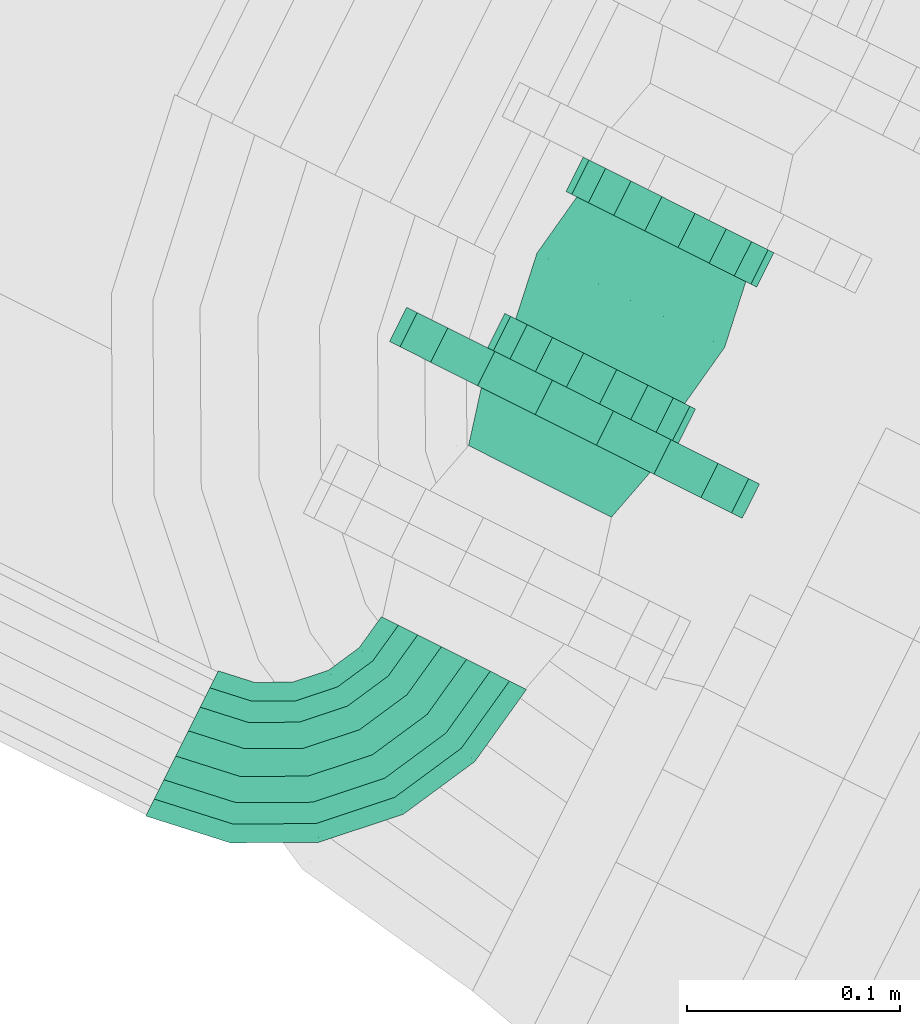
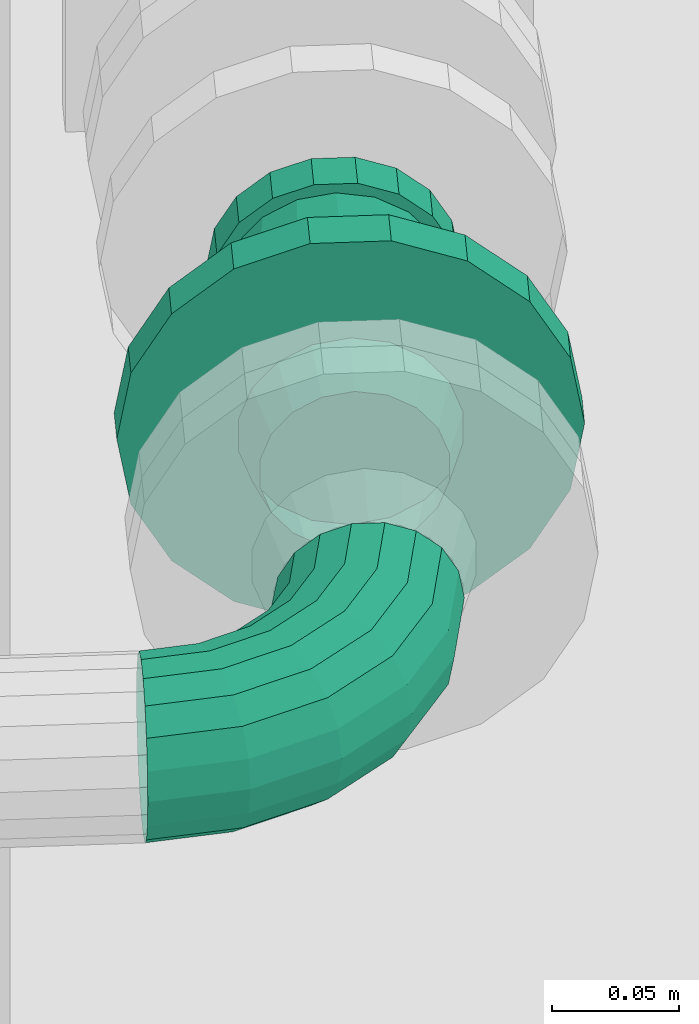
# One storey, part 45 of 206: 2 flow segments, 1 flow fitting.
"""IFC2X3 building model written with IfcOpenShell, lengths in metres."""

from ifc_helpers import new_model, si_unit, derived_unit, direction, frame, origin, place, context, subcontext, project, spatial, face_set, surface_model, source, transform, mapped, material, type_object, type_shapes, element, save


model = new_model("IFC2X3")

# Units and contexts
model_context = context("Model", 3, precision=5.2338327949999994e-05, world=origin(), true_north=direction((0.0, 1.0)))
body_context = subcontext(model_context, "Body", "Model", "MODEL_VIEW")
ifc_project = project(units=[si_unit("LENGTHUNIT", "METRE"), si_unit("AREAUNIT", "SQUARE_METRE"), si_unit("VOLUMEUNIT", "CUBIC_METRE"), si_unit("MASSUNIT", "GRAM", prefix="KILO"), si_unit("PLANEANGLEUNIT", "RADIAN"), derived_unit("THERMALTRANSMITTANCEUNIT", [(si_unit("MASSUNIT", "GRAM", prefix="KILO"), 1), (si_unit("THERMODYNAMICTEMPERATUREUNIT", "KELVIN"), -1), (si_unit("TIMEUNIT", "SECOND"), -3)])], contexts=[model_context])

# Site, building, storey
site_placement = place(None, frame((0.0, 0.0, 0.0), z_axis=(0.0, 0.0, 1.0), x_axis=(0.8939966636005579, -0.4480736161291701, 0.0)))
site = spatial("IfcSite", under=ifc_project, at=site_placement, Name="Default", CompositionType="ELEMENT")
building_placement = place(site_placement, origin())
building = spatial("IfcBuilding", under=site, at=building_placement, CompositionType="ELEMENT")
storey_placement = place(building_placement, origin())
storey = spatial("IfcBuildingStorey", under=building, at=storey_placement, Name="Erdgeschoss", CompositionType="ELEMENT", Elevation=0.0)

# Flow fitting
ifc_material = material(Name="IfcSurfaceStyle #352577")
distribution_element_type_1 = type_object("IfcDistributionElementType", Name="Flansch 354304:Flansch 354304", material=ifc_material)
shared_shape_1 = source(origin(), body_context, "Body", "SurfaceModel", [
    surface_model("IfcFaceBasedSurfaceModel", [(22.356766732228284, 5.01295839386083, 0.9080499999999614), (22.36978059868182, 5.012958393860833, 0.905755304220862), (22.372157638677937, 5.039958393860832, 0.9122861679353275), (22.35676673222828, 5.039958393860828, 0.914999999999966), (22.381224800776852, 5.012958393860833, 0.899147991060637), (22.38569217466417, 5.039958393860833, 0.9044719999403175), (22.38971899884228, 5.012958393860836, 0.8890249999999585), (22.39573787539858, 5.039958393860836, 0.8924999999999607), (22.39423866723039, 5.012958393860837, 0.8766073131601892), (22.401083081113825, 5.039958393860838, 0.8778141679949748), (22.3942386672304, 5.012958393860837, 0.8633926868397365), (22.40108308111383, 5.039958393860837, 0.8621858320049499), (22.38971899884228, 5.012958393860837, 0.85097499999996), (22.39573787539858, 5.039958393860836, 0.8474999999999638), (22.38122480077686, 5.012958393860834, 0.8408520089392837), (22.38569217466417, 5.039958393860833, 0.8355280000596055), (22.369780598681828, 5.012958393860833, 0.8342446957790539), (22.372157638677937, 5.039958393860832, 0.8277138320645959), (22.356766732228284, 5.012958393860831, 0.8319499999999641), (22.356766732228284, 5.03995839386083, 0.8249999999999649), (22.34375286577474, 5.012958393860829, 0.8342446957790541), (22.341375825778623, 5.039958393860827, 0.8277138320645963), (22.33230866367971, 5.012958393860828, 0.8408520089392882), (22.32784128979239, 5.039958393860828, 0.8355280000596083), (22.323814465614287, 5.012958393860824, 0.8509749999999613), (22.317795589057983, 5.039958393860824, 0.8474999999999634), (22.319294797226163, 5.012958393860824, 0.8633926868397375), (22.312450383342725, 5.039958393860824, 0.8621858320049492), (22.319294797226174, 5.012958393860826, 0.8766073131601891), (22.31245038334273, 5.039958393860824, 0.8778141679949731), (22.323814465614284, 5.012958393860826, 0.8890249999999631), (22.317795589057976, 5.039958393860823, 0.8924999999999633), (22.33230866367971, 5.012958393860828, 0.8991479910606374), (22.327841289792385, 5.039958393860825, 0.9044719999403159), (22.343752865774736, 5.012958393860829, 0.9057553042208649), (22.341375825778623, 5.039958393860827, 0.9122861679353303), (22.26426673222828, 5.039958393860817, 0.8699999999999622), (22.269845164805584, 5.039958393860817, 0.9016368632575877), (22.269845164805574, 5.057958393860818, 0.9016368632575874), (22.264266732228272, 5.057958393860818, 0.8699999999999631), (22.28590762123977, 5.03995839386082, 0.9294578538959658), (22.285907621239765, 5.05795839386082, 0.9294578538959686), (22.310516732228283, 5.039958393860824, 0.9501073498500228), (22.310516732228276, 5.057958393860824, 0.9501073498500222), (22.34070427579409, 5.039958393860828, 0.9610947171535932), (22.340704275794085, 5.057958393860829, 0.9610947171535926), (22.37282918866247, 5.039958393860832, 0.9610947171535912), (22.372829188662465, 5.057958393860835, 0.9610947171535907), (22.403016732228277, 5.039958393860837, 0.9501073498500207), (22.403016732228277, 5.057958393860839, 0.95010734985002), (22.427625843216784, 5.039958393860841, 0.9294578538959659), (22.427625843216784, 5.057958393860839, 0.9294578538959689), (22.443688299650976, 5.039958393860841, 0.9016368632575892), (22.443688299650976, 5.057958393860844, 0.901636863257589), (22.449266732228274, 5.039958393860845, 0.8699999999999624), (22.449266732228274, 5.057958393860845, 0.8699999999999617), (22.443688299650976, 5.039958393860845, 0.8383631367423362), (22.44368829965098, 5.057958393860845, 0.838363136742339), (22.427625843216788, 5.039958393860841, 0.810542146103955), (22.42762584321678, 5.057958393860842, 0.810542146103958), (22.403016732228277, 5.039958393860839, 0.7898926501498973), (22.403016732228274, 5.057958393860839, 0.7898926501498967), (22.372829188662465, 5.039958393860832, 0.7789052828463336), (22.372829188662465, 5.057958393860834, 0.7789052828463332), (22.34070427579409, 5.039958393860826, 0.7789052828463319), (22.34070427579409, 5.057958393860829, 0.7789052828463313), (22.310516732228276, 5.039958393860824, 0.7898926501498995), (22.310516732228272, 5.057958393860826, 0.7898926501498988), (22.285907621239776, 5.039958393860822, 0.8105421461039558), (22.28590762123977, 5.05795839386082, 0.8105421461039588), (22.269845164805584, 5.039958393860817, 0.838363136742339), (22.269845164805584, 5.057958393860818, 0.8383631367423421), (22.356766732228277, 5.0399583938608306, 0.8699999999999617)], [face_set([[[0, 1, 2, 3]], [[1, 4, 5, 2]], [[4, 6, 7, 5]], [[6, 8, 9, 7]], [[8, 10, 11, 9]], [[10, 12, 13, 11]], [[12, 14, 15, 13]], [[14, 16, 17, 15]], [[16, 18, 19, 17]], [[18, 20, 21, 19]], [[20, 22, 23, 21]], [[22, 24, 25, 23]], [[24, 26, 27, 25]], [[26, 28, 29, 27]], [[28, 30, 31, 29]], [[30, 32, 33, 31]], [[32, 34, 35, 33]], [[34, 0, 3, 35]], [[36, 37, 38, 39]], [[37, 40, 41, 38]], [[40, 42, 43, 41]], [[42, 44, 45, 43]], [[44, 46, 47, 45]], [[46, 48, 49, 47]], [[48, 50, 51, 49]], [[50, 52, 53, 51]], [[52, 54, 55, 53]], [[54, 56, 57, 55]], [[56, 58, 59, 57]], [[58, 60, 61, 59]], [[60, 62, 63, 61]], [[62, 64, 65, 63]], [[64, 66, 67, 65]], [[66, 68, 69, 67]], [[68, 70, 71, 69]], [[70, 36, 39, 71]], [[72, 37, 36]], [[72, 40, 37]], [[72, 42, 40]], [[72, 44, 42]], [[72, 46, 44]], [[72, 48, 46]], [[72, 50, 48]], [[72, 52, 50]], [[72, 54, 52]], [[72, 56, 54]], [[72, 58, 56]], [[72, 60, 58]], [[72, 62, 60]], [[72, 64, 62]], [[72, 66, 64]], [[72, 68, 66]], [[72, 70, 68]], [[72, 36, 70]]])]),
])
type_shapes(distribution_element_type_1, [shared_shape_1])
flow_fitting_placement = place(storey_placement, origin())
element("IfcFlowFitting", 1, at=flow_fitting_placement, inside=storey, type_object=distribution_element_type_1, material=ifc_material, Name="Flansch", ObjectType="Flansch", context=body_context, shape_type="MappedRepresentation", body=[
    mapped(shared_shape_1, transform((0.0, 0.0, 0.0), scale=1.0)),
])

# Flow segments
distribution_element_type_2 = type_object("IfcDistributionElementType", Name="Rohrbogen 355778:Rohrbogen 355778", material=ifc_material)
shared_shape_2 = source(origin(), body_context, "Body", "SurfaceModel", [
    surface_model("IfcFaceBasedSurfaceModel", [(22.394816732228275, 4.922958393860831, 0.8699999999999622), (22.392522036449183, 4.92295839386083, 0.8830138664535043), (22.38612241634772, 4.882552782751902, 0.8830138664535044), (22.388304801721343, 4.881843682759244, 0.8699999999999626), (22.367549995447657, 4.846102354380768, 0.8830138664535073), (22.369406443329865, 4.844753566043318, 0.8699999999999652), (22.338622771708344, 4.817175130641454, 0.8830138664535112), (22.33997156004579, 4.815318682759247, 0.8699999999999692), (22.30217234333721, 4.798602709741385, 0.8830138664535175), (22.302881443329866, 4.796420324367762, 0.8699999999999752), (22.261766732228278, 4.7922030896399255, 0.8830138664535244), (22.261766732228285, 4.7899083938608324, 0.8699999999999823), (22.385914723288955, 4.92295839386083, 0.8944580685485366), (22.379838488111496, 4.884594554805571, 0.8944580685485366), (22.36220456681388, 4.849986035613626, 0.8944580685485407), (22.334739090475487, 4.822520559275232, 0.8944580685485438), (22.30013057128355, 4.804886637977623, 0.8944580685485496), (22.26176673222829, 4.798810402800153, 0.8944580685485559), (22.375791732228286, 4.922958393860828, 0.9029522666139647), (22.37021095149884, 4.887722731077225, 0.9029522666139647), (22.35401489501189, 4.855936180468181, 0.9029522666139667), (22.32878894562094, 4.8307102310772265, 0.902952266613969), (22.297002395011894, 4.814514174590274, 0.9029522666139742), (22.26176673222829, 4.808933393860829, 0.9029522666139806), (22.363374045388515, 4.922958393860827, 0.907471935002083), (22.358401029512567, 4.891560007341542, 0.9074719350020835), (22.34396877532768, 4.863235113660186, 0.9074719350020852), (22.32149001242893, 4.840756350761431, 0.9074719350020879), (22.293165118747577, 4.826324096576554, 0.9074719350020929), (22.261766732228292, 4.821351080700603, 0.9074719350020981), (22.35015941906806, 4.922958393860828, 0.907471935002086), (22.34583317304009, 4.895643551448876, 0.9074719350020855), (22.333277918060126, 4.871002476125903, 0.9074719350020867), (22.313722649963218, 4.851447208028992, 0.9074719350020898), (22.289081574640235, 4.838891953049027, 0.9074719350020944), (22.261766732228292, 4.8345657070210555, 0.9074719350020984), (22.337741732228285, 4.92295839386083, 0.9029522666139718), (22.334023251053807, 4.899480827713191, 0.9029522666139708), (22.323231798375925, 4.878301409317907, 0.9029522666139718), (22.306423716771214, 4.861493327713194, 0.9029522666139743), (22.28524429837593, 4.850701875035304, 0.9029522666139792), (22.261766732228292, 4.8469833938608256, 0.9029522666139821), (22.32761874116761, 4.922958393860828, 0.8944580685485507), (22.324395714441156, 4.902609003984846, 0.8944580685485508), (22.315042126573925, 4.884251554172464, 0.8944580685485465), (22.30047357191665, 4.86968299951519, 0.8944580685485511), (22.28211612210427, 4.860329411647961, 0.8944580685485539), (22.261766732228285, 4.857106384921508, 0.8944580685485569), (22.321011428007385, 4.92295839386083, 0.8830138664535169), (22.318111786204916, 4.9046507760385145, 0.8830138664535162), (22.309696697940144, 4.888135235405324, 0.8830138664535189), (22.296589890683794, 4.875028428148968, 0.883013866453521), (22.2800743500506, 4.866613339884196, 0.883013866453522), (22.26176673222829, 4.863713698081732, 0.8830138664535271), (22.318716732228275, 4.922958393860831, 0.8699999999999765), (22.315929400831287, 4.905359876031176, 0.8699999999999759), (22.307840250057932, 4.889484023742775, 0.8699999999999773), (22.29524110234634, 4.876884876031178, 0.8699999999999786), (22.27936525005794, 4.868795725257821, 0.8699999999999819), (22.261766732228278, 4.866008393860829, 0.8699999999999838), (22.321011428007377, 4.92295839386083, 0.8569861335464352), (22.318111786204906, 4.904650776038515, 0.8569861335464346), (22.30969669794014, 4.888135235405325, 0.8569861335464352), (22.296589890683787, 4.87502842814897, 0.8569861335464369), (22.280074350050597, 4.866613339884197, 0.8569861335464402), (22.261766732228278, 4.863713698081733, 0.8569861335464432), (22.327618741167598, 4.92295839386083, 0.8455419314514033), (22.32439571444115, 4.902609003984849, 0.8455419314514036), (22.315042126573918, 4.884251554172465, 0.8455419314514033), (22.30047357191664, 4.86968299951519, 0.8455419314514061), (22.28211612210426, 4.860329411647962, 0.8455419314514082), (22.261766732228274, 4.85710638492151, 0.8455419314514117), (22.337741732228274, 4.922958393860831, 0.8370477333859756), (22.334023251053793, 4.899480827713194, 0.8370477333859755), (22.323231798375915, 4.878301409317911, 0.837047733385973), (22.3064237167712, 4.861493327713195, 0.8370477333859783), (22.285244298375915, 4.850701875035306, 0.8370477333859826), (22.261766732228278, 4.846983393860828, 0.8370477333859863), (22.350159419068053, 4.92295839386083, 0.8325280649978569), (22.345833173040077, 4.8956435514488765, 0.8325280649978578), (22.33327791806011, 4.871002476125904, 0.8325280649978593), (22.3137226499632, 4.851447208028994, 0.8325280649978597), (22.289081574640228, 4.838891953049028, 0.8325280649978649), (22.261766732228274, 4.834565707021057, 0.8325280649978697), (22.3633740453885, 4.92295839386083, 0.8325280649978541), (22.35840102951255, 4.891560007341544, 0.8325280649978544), (22.343968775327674, 4.8632351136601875, 0.8325280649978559), (22.321490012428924, 4.840756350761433, 0.832528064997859), (22.293165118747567, 4.826324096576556, 0.8325280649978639), (22.261766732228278, 4.8213510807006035, 0.8325280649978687), (22.375791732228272, 4.92295839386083, 0.8370477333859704), (22.370210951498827, 4.887722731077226, 0.8370477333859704), (22.35401489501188, 4.855936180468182, 0.8370477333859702), (22.32878894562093, 4.830710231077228, 0.837047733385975), (22.29700239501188, 4.8145141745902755, 0.8370477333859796), (22.261766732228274, 4.808933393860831, 0.837047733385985), (22.385914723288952, 4.922958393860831, 0.8455419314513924), (22.379838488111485, 4.884594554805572, 0.8455419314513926), (22.362204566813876, 4.849986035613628, 0.8455419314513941), (22.33473909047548, 4.822520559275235, 0.8455419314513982), (22.300130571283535, 4.8048866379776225, 0.8455419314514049), (22.261766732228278, 4.798810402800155, 0.8455419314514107), (22.39252203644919, 4.922958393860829, 0.8569861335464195), (22.386122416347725, 4.882552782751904, 0.8569861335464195), (22.367549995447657, 4.846102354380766, 0.856986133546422), (22.338622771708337, 4.817175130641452, 0.8569861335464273), (22.302172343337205, 4.798602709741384, 0.8569861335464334), (22.261766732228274, 4.792203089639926, 0.8569861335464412)], [face_set([[[0, 1, 2, 3]], [[3, 2, 4, 5]], [[5, 4, 6, 7]], [[7, 6, 8, 9]], [[9, 8, 10, 11]], [[1, 12, 13, 2]], [[2, 13, 14, 4]], [[4, 14, 15, 6]], [[6, 15, 16, 8]], [[8, 16, 17, 10]], [[12, 18, 19, 13]], [[13, 19, 20, 14]], [[14, 20, 21, 15]], [[15, 21, 22, 16]], [[16, 22, 23, 17]], [[18, 24, 25, 19]], [[19, 25, 26, 20]], [[20, 26, 27, 21]], [[21, 27, 28, 22]], [[22, 28, 29, 23]], [[24, 30, 31, 25]], [[25, 31, 32, 26]], [[26, 32, 33, 27]], [[27, 33, 34, 28]], [[28, 34, 35, 29]], [[30, 36, 37, 31]], [[31, 37, 38, 32]], [[32, 38, 39, 33]], [[33, 39, 40, 34]], [[34, 40, 41, 35]], [[36, 42, 43, 37]], [[37, 43, 44, 38]], [[38, 44, 45, 39]], [[39, 45, 46, 40]], [[40, 46, 47, 41]], [[42, 48, 49, 43]], [[43, 49, 50, 44]], [[44, 50, 51, 45]], [[45, 51, 52, 46]], [[46, 52, 53, 47]], [[48, 54, 55, 49]], [[49, 55, 56, 50]], [[50, 56, 57, 51]], [[51, 57, 58, 52]], [[52, 58, 59, 53]], [[54, 60, 61, 55]], [[55, 61, 62, 56]], [[56, 62, 63, 57]], [[57, 63, 64, 58]], [[58, 64, 65, 59]], [[60, 66, 67, 61]], [[61, 67, 68, 62]], [[62, 68, 69, 63]], [[63, 69, 70, 64]], [[64, 70, 71, 65]], [[66, 72, 73, 67]], [[67, 73, 74, 68]], [[68, 74, 75, 69]], [[69, 75, 76, 70]], [[70, 76, 77, 71]], [[72, 78, 79, 73]], [[73, 79, 80, 74]], [[74, 80, 81, 75]], [[75, 81, 82, 76]], [[76, 82, 83, 77]], [[78, 84, 85, 79]], [[79, 85, 86, 80]], [[80, 86, 87, 81]], [[81, 87, 88, 82]], [[82, 88, 89, 83]], [[84, 90, 91, 85]], [[85, 91, 92, 86]], [[86, 92, 93, 87]], [[87, 93, 94, 88]], [[88, 94, 95, 89]], [[90, 96, 97, 91]], [[91, 97, 98, 92]], [[92, 98, 99, 93]], [[93, 99, 100, 94]], [[94, 100, 101, 95]], [[96, 102, 103, 97]], [[97, 103, 104, 98]], [[98, 104, 105, 99]], [[99, 105, 106, 100]], [[100, 106, 107, 101]], [[102, 0, 3, 103]], [[103, 3, 5, 104]], [[104, 5, 7, 105]], [[105, 7, 9, 106]], [[106, 9, 11, 107]]])]),
])
type_shapes(distribution_element_type_2, [shared_shape_2])
flow_segment_1_placement = place(storey_placement, origin())
element("IfcFlowSegment", 2, at=flow_segment_1_placement, inside=storey, type_object=distribution_element_type_2, material=ifc_material, Name="Rohrbogen", ObjectType="Rohrbogen", context=body_context, shape_type="MappedRepresentation", body=[
    mapped(shared_shape_2, transform((0.0, 0.0, 0.0), scale=1.0)),
])
distribution_element_type_3 = type_object("IfcDistributionElementType", Name="Gummikompensator:Gummikompensator", material=ifc_material)
shared_shape_3 = source(origin(), body_context, "Body", "SurfaceModel", [
    surface_model("IfcFaceBasedSurfaceModel", [(22.306766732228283, 5.15795839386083, 0.8699999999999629), (22.309782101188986, 5.15795839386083, 0.8528989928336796), (22.309782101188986, 5.13995839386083, 0.8528989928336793), (22.306766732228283, 5.13995839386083, 0.8699999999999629), (22.318464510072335, 5.15795839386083, 0.8378606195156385), (22.318464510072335, 5.13995839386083, 0.8378606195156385), (22.33176673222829, 5.15795839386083, 0.8266987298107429), (22.33176673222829, 5.13995839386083, 0.8266987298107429), (22.348084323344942, 5.15795839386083, 0.8207596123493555), (22.348084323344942, 5.13995839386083, 0.8207596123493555), (22.36544914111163, 5.15795839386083, 0.820759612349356), (22.36544914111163, 5.13995839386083, 0.820759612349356), (22.381766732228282, 5.15795839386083, 0.826698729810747), (22.381766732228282, 5.13995839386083, 0.826698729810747), (22.39506895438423, 5.15795839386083, 0.8378606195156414), (22.39506895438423, 5.13995839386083, 0.8378606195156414), (22.40375136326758, 5.15795839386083, 0.8528989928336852), (22.40375136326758, 5.13995839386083, 0.8528989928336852), (22.40676673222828, 5.15795839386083, 0.8699999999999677), (22.40676673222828, 5.13995839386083, 0.8699999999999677), (22.403751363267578, 5.15795839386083, 0.8871010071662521), (22.403751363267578, 5.13995839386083, 0.8871010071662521), (22.395068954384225, 5.15795839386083, 0.9021393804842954), (22.395068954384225, 5.13995839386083, 0.9021393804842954), (22.38176673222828, 5.15795839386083, 0.9133012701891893), (22.38176673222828, 5.13995839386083, 0.9133012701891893), (22.36544914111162, 5.15795839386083, 0.9192403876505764), (22.36544914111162, 5.13995839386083, 0.9192403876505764), (22.34808432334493, 5.15795839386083, 0.9192403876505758), (22.34808432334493, 5.13995839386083, 0.9192403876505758), (22.331766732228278, 5.15795839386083, 0.9133012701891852), (22.331766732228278, 5.13995839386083, 0.9133012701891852), (22.318464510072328, 5.15795839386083, 0.9021393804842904), (22.318464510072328, 5.13995839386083, 0.9021393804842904), (22.309782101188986, 5.15795839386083, 0.887101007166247), (22.309782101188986, 5.13995839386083, 0.887101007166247), (22.356766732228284, 5.15795839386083, 0.8699999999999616), (22.356766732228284, 5.139958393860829, 0.8699999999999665), (22.356766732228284, 5.13995839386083, 0.8249999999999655), (22.37215763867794, 5.13995839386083, 0.8277138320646), (22.37386773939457, 5.10795839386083, 0.8230153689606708), (22.356766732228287, 5.10795839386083, 0.8199999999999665), (22.38569217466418, 5.13995839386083, 0.8355280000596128), (22.388906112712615, 5.10795839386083, 0.8316977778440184), (22.395737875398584, 5.13995839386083, 0.847499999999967), (22.400068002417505, 5.10795839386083, 0.844999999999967), (22.40108308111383, 5.13995839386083, 0.8621858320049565), (22.406007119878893, 5.10795839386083, 0.861317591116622), (22.40108308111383, 5.13995839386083, 0.8778141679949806), (22.406007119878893, 5.10795839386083, 0.8786824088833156), (22.39573787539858, 5.13995839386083, 0.8924999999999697), (22.4000680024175, 5.10795839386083, 0.8949999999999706), (22.38569217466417, 5.13995839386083, 0.9044719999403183), (22.3889061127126, 5.10795839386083, 0.9083022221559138), (22.372157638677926, 5.13995839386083, 0.9122861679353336), (22.37386773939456, 5.10795839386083, 0.9169846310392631), (22.35676673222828, 5.13995839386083, 0.9149999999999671), (22.356766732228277, 5.10795839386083, 0.9199999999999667), (22.341375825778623, 5.13995839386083, 0.912286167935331), (22.339665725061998, 5.10795839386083, 0.9169846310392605), (22.327841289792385, 5.13995839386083, 0.9044719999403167), (22.32462735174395, 5.10795839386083, 0.908302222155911), (22.31779558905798, 5.13995839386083, 0.8924999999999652), (22.31346546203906, 5.10795839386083, 0.8949999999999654), (22.312450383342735, 5.13995839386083, 0.8778141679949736), (22.307526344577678, 5.10795839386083, 0.8786824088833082), (22.31245038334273, 5.13995839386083, 0.8621858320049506), (22.30752634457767, 5.10795839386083, 0.8613175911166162), (22.317795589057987, 5.13995839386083, 0.8474999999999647), (22.31346546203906, 5.10795839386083, 0.8449999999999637), (22.327841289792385, 5.13995839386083, 0.8355280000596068), (22.32462735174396, 5.10795839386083, 0.831697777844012), (22.341375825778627, 5.13995839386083, 0.8277138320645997), (22.339665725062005, 5.10795839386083, 0.8230153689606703), (22.37215763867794, 5.07595839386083, 0.8277138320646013), (22.356766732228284, 5.07595839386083, 0.8249999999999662), (22.38569217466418, 5.07595839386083, 0.8355280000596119), (22.395737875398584, 5.07595839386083, 0.8474999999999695), (22.40108308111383, 5.07595839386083, 0.8621858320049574), (22.40108308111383, 5.07595839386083, 0.8778141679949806), (22.39573787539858, 5.07595839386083, 0.8924999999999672), (22.38569217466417, 5.07595839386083, 0.904471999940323), (22.372157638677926, 5.07595839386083, 0.9122861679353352), (22.35676673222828, 5.07595839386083, 0.9149999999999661), (22.341375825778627, 5.07595839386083, 0.912286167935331), (22.327841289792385, 5.07595839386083, 0.9044719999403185), (22.31779558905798, 5.07595839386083, 0.8924999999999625), (22.312450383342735, 5.07595839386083, 0.8778141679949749), (22.31245038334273, 5.07595839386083, 0.862185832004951), (22.317795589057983, 5.07595839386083, 0.8474999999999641), (22.327841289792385, 5.07595839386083, 0.8355280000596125), (22.341375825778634, 5.07595839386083, 0.8277138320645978), (22.306766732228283, 5.07595839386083, 0.8699999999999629), (22.309782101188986, 5.07595839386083, 0.8528989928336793), (22.309782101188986, 5.0579583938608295, 0.8528989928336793), (22.306766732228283, 5.0579583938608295, 0.8699999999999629), (22.318464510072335, 5.07595839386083, 0.8378606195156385), (22.318464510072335, 5.0579583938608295, 0.8378606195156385), (22.33176673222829, 5.07595839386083, 0.8266987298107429), (22.33176673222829, 5.0579583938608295, 0.8266987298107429), (22.348084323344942, 5.07595839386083, 0.8207596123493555), (22.348084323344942, 5.0579583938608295, 0.8207596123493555), (22.36544914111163, 5.07595839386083, 0.820759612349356), (22.36544914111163, 5.0579583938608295, 0.820759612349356), (22.381766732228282, 5.07595839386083, 0.826698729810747), (22.381766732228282, 5.0579583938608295, 0.826698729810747), (22.39506895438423, 5.07595839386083, 0.8378606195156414), (22.39506895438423, 5.0579583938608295, 0.8378606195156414), (22.40375136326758, 5.07595839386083, 0.8528989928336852), (22.40375136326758, 5.0579583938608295, 0.8528989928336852), (22.40676673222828, 5.07595839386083, 0.8699999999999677), (22.40676673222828, 5.0579583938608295, 0.8699999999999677), (22.403751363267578, 5.07595839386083, 0.8871010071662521), (22.403751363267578, 5.0579583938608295, 0.8871010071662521), (22.395068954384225, 5.07595839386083, 0.9021393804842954), (22.395068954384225, 5.0579583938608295, 0.9021393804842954), (22.38176673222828, 5.07595839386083, 0.9133012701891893), (22.38176673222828, 5.0579583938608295, 0.9133012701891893), (22.36544914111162, 5.07595839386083, 0.9192403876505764), (22.36544914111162, 5.0579583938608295, 0.9192403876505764), (22.34808432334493, 5.07595839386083, 0.9192403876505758), (22.34808432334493, 5.0579583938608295, 0.9192403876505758), (22.331766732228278, 5.07595839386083, 0.9133012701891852), (22.331766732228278, 5.0579583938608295, 0.9133012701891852), (22.318464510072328, 5.07595839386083, 0.9021393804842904), (22.318464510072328, 5.0579583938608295, 0.9021393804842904), (22.309782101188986, 5.07595839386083, 0.887101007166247), (22.309782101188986, 5.0579583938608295, 0.887101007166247), (22.356766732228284, 5.07595839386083, 0.8699999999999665), (22.356766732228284, 5.0579583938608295, 0.8699999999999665)], [face_set([[[0, 1, 2, 3]], [[1, 4, 5, 2]], [[4, 6, 7, 5]], [[6, 8, 9, 7]], [[8, 10, 11, 9]], [[10, 12, 13, 11]], [[12, 14, 15, 13]], [[14, 16, 17, 15]], [[16, 18, 19, 17]], [[18, 20, 21, 19]], [[20, 22, 23, 21]], [[22, 24, 25, 23]], [[24, 26, 27, 25]], [[26, 28, 29, 27]], [[28, 30, 31, 29]], [[30, 32, 33, 31]], [[32, 34, 35, 33]], [[34, 0, 3, 35]], [[36, 1, 0]], [[36, 4, 1]], [[36, 6, 4]], [[36, 8, 6]], [[36, 10, 8]], [[36, 12, 10]], [[36, 14, 12]], [[36, 16, 14]], [[36, 18, 16]], [[36, 20, 18]], [[36, 22, 20]], [[36, 24, 22]], [[36, 26, 24]], [[36, 28, 26]], [[36, 30, 28]], [[36, 32, 30]], [[36, 34, 32]], [[36, 0, 34]], [[37, 35, 3]], [[37, 33, 35]], [[37, 31, 33]], [[37, 29, 31]], [[37, 27, 29]], [[37, 25, 27]], [[37, 23, 25]], [[37, 21, 23]], [[37, 19, 21]], [[37, 17, 19]], [[37, 15, 17]], [[37, 13, 15]], [[37, 11, 13]], [[37, 9, 11]], [[37, 7, 9]], [[37, 5, 7]], [[37, 2, 5]], [[37, 3, 2]], [[38, 39, 40, 41]], [[39, 42, 43, 40]], [[42, 44, 45, 43]], [[44, 46, 47, 45]], [[46, 48, 49, 47]], [[48, 50, 51, 49]], [[50, 52, 53, 51]], [[52, 54, 55, 53]], [[54, 56, 57, 55]], [[56, 58, 59, 57]], [[58, 60, 61, 59]], [[60, 62, 63, 61]], [[62, 64, 65, 63]], [[64, 66, 67, 65]], [[66, 68, 69, 67]], [[68, 70, 71, 69]], [[70, 72, 73, 71]], [[72, 38, 41, 73]], [[41, 40, 74, 75]], [[40, 43, 76, 74]], [[43, 45, 77, 76]], [[45, 47, 78, 77]], [[47, 49, 79, 78]], [[49, 51, 80, 79]], [[51, 53, 81, 80]], [[53, 55, 82, 81]], [[55, 57, 83, 82]], [[57, 59, 84, 83]], [[59, 61, 85, 84]], [[61, 63, 86, 85]], [[63, 65, 87, 86]], [[65, 67, 88, 87]], [[67, 69, 89, 88]], [[69, 71, 90, 89]], [[71, 73, 91, 90]], [[73, 41, 75, 91]], [[92, 93, 94, 95]], [[93, 96, 97, 94]], [[96, 98, 99, 97]], [[98, 100, 101, 99]], [[100, 102, 103, 101]], [[102, 104, 105, 103]], [[104, 106, 107, 105]], [[106, 108, 109, 107]], [[108, 110, 111, 109]], [[110, 112, 113, 111]], [[112, 114, 115, 113]], [[114, 116, 117, 115]], [[116, 118, 119, 117]], [[118, 120, 121, 119]], [[120, 122, 123, 121]], [[122, 124, 125, 123]], [[124, 126, 127, 125]], [[126, 92, 95, 127]], [[128, 93, 92]], [[128, 96, 93]], [[128, 98, 96]], [[128, 100, 98]], [[128, 102, 100]], [[128, 104, 102]], [[128, 106, 104]], [[128, 108, 106]], [[128, 110, 108]], [[128, 112, 110]], [[128, 114, 112]], [[128, 116, 114]], [[128, 118, 116]], [[128, 120, 118]], [[128, 122, 120]], [[128, 124, 122]], [[128, 126, 124]], [[128, 92, 126]], [[129, 127, 95]], [[129, 125, 127]], [[129, 123, 125]], [[129, 121, 123]], [[129, 119, 121]], [[129, 117, 119]], [[129, 115, 117]], [[129, 113, 115]], [[129, 111, 113]], [[129, 109, 111]], [[129, 107, 109]], [[129, 105, 107]], [[129, 103, 105]], [[129, 101, 103]], [[129, 99, 101]], [[129, 97, 99]], [[129, 94, 97]], [[129, 95, 94]]])]),
])
type_shapes(distribution_element_type_3, [shared_shape_3])
flow_segment_2_placement = place(storey_placement, origin())
element("IfcFlowSegment", 3, at=flow_segment_2_placement, inside=storey, type_object=distribution_element_type_3, material=ifc_material, Name="Gummikompensator", ObjectType="Gummikompensator", context=body_context, shape_type="MappedRepresentation", body=[
    mapped(shared_shape_3, transform((0.0, 0.0, 0.0), scale=1.0)),
])

save(model, "model.ifc")
